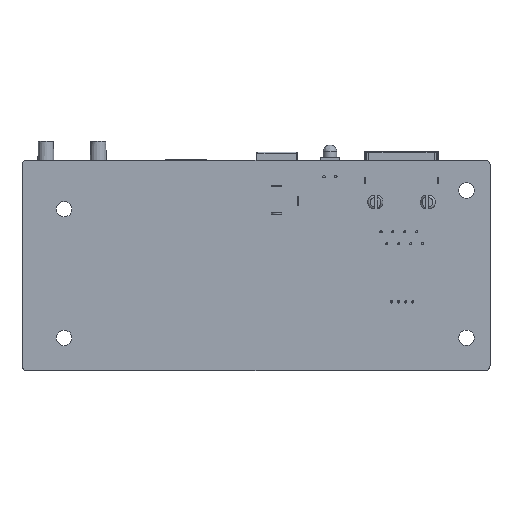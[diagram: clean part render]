
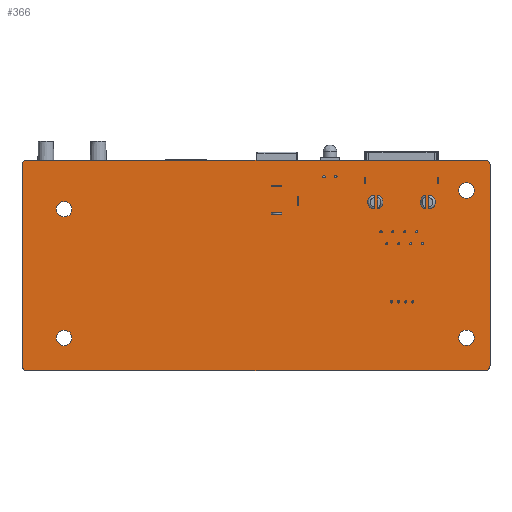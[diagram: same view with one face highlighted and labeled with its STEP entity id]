
A CAD part, front view. The second image highlights one B-rep face of the part: STEP entity #366.
In plain terms, the highlighted planar face has unit normal (0, -1, 0).
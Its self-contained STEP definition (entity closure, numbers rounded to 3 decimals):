
#39=CARTESIAN_POINT('',(-41.,0.,-15.5));
#40=DIRECTION('',(0.,1.,0.));
#41=DIRECTION('',(1.,0.,0.));
#42=AXIS2_PLACEMENT_3D('',#39,#40,#41);
#44=CARTESIAN_POINT('',(-41.,0.,-15.5));
#45=DIRECTION('',(0.,1.,0.));
#46=DIRECTION('',(-1.,0.,0.));
#47=AXIS2_PLACEMENT_3D('',#44,#45,#46);
#49=CARTESIAN_POINT('',(-41.,0.,12.));
#50=DIRECTION('',(0.,1.,0.));
#51=DIRECTION('',(1.,0.,0.));
#52=AXIS2_PLACEMENT_3D('',#49,#50,#51);
#54=CARTESIAN_POINT('',(-41.,0.,12.));
#55=DIRECTION('',(0.,1.,0.));
#56=DIRECTION('',(-1.,0.,0.));
#57=AXIS2_PLACEMENT_3D('',#54,#55,#56);
#59=CARTESIAN_POINT('',(45.,0.,-15.5));
#60=DIRECTION('',(0.,1.,0.));
#61=DIRECTION('',(1.,0.,0.));
#62=AXIS2_PLACEMENT_3D('',#59,#60,#61);
#64=CARTESIAN_POINT('',(45.,0.,-15.5));
#65=DIRECTION('',(0.,1.,0.));
#66=DIRECTION('',(-1.,0.,0.));
#67=AXIS2_PLACEMENT_3D('',#64,#65,#66);
#69=CARTESIAN_POINT('',(45.,0.,16.));
#70=DIRECTION('',(0.,1.,0.));
#71=DIRECTION('',(1.,0.,0.));
#72=AXIS2_PLACEMENT_3D('',#69,#70,#71);
#74=CARTESIAN_POINT('',(45.,0.,16.));
#75=DIRECTION('',(0.,1.,0.));
#76=DIRECTION('',(-1.,0.,0.));
#77=AXIS2_PLACEMENT_3D('',#74,#75,#76);
#79=CARTESIAN_POINT('',(-49.,0.,-21.5));
#80=DIRECTION('',(0.,-1.,0.));
#81=DIRECTION('',(-1.,0.,0.));
#82=AXIS2_PLACEMENT_3D('',#79,#80,#81);
#84=DIRECTION('',(0.,0.,1.));
#85=VECTOR('',#84,43.);
#86=CARTESIAN_POINT('',(-50.,0.,-21.5));
#87=LINE('',#86,#85);
#88=CARTESIAN_POINT('',(-49.,0.,21.5));
#89=DIRECTION('',(0.,-1.,0.));
#90=DIRECTION('',(0.,0.,1.));
#91=AXIS2_PLACEMENT_3D('',#88,#89,#90);
#93=DIRECTION('',(1.,0.,0.));
#94=VECTOR('',#93,98.);
#95=CARTESIAN_POINT('',(-49.,0.,22.5));
#96=LINE('',#95,#94);
#97=CARTESIAN_POINT('',(49.,0.,21.5));
#98=DIRECTION('',(0.,-1.,0.));
#99=DIRECTION('',(1.,0.,0.));
#100=AXIS2_PLACEMENT_3D('',#97,#98,#99);
#102=DIRECTION('',(0.,0.,-1.));
#103=VECTOR('',#102,43.);
#104=CARTESIAN_POINT('',(50.,0.,21.5));
#105=LINE('',#104,#103);
#106=CARTESIAN_POINT('',(49.,0.,-21.5));
#107=DIRECTION('',(0.,-1.,0.));
#108=DIRECTION('',(0.,0.,-1.));
#109=AXIS2_PLACEMENT_3D('',#106,#107,#108);
#111=DIRECTION('',(-1.,0.,0.));
#112=VECTOR('',#111,98.);
#113=CARTESIAN_POINT('',(49.,0.,-22.5));
#114=LINE('',#113,#112);
#255=CARTESIAN_POINT('',(-39.35,0.,-15.5));
#256=CARTESIAN_POINT('',(-42.65,0.,-15.5));
#257=VERTEX_POINT('',#255);
#258=VERTEX_POINT('',#256);
#259=CARTESIAN_POINT('',(-39.35,0.,12.));
#260=CARTESIAN_POINT('',(-42.65,0.,12.));
#261=VERTEX_POINT('',#259);
#262=VERTEX_POINT('',#260);
#263=CARTESIAN_POINT('',(46.65,0.,-15.5));
#264=CARTESIAN_POINT('',(43.35,0.,-15.5));
#265=VERTEX_POINT('',#263);
#266=VERTEX_POINT('',#264);
#267=CARTESIAN_POINT('',(46.65,0.,16.));
#268=CARTESIAN_POINT('',(43.35,0.,16.));
#269=VERTEX_POINT('',#267);
#270=VERTEX_POINT('',#268);
#287=CARTESIAN_POINT('',(-50.,0.,-21.5));
#288=CARTESIAN_POINT('',(-49.,0.,-22.5));
#289=VERTEX_POINT('',#287);
#290=VERTEX_POINT('',#288);
#295=CARTESIAN_POINT('',(-49.,0.,22.5));
#296=CARTESIAN_POINT('',(-50.,0.,21.5));
#297=VERTEX_POINT('',#295);
#298=VERTEX_POINT('',#296);
#303=CARTESIAN_POINT('',(50.,0.,21.5));
#304=CARTESIAN_POINT('',(49.,0.,22.5));
#305=VERTEX_POINT('',#303);
#306=VERTEX_POINT('',#304);
#311=CARTESIAN_POINT('',(49.,0.,-22.5));
#312=CARTESIAN_POINT('',(50.,0.,-21.5));
#313=VERTEX_POINT('',#311);
#314=VERTEX_POINT('',#312);
#319=CARTESIAN_POINT('',(0.,0.,0.));
#320=DIRECTION('',(0.,1.,0.));
#321=DIRECTION('',(1.,0.,0.));
#322=AXIS2_PLACEMENT_3D('',#319,#320,#321);
#323=PLANE('',#322);
#325=ORIENTED_EDGE('',*,*,#324,.F.);
#327=ORIENTED_EDGE('',*,*,#326,.T.);
#329=ORIENTED_EDGE('',*,*,#328,.F.);
#331=ORIENTED_EDGE('',*,*,#330,.T.);
#333=ORIENTED_EDGE('',*,*,#332,.F.);
#335=ORIENTED_EDGE('',*,*,#334,.T.);
#337=ORIENTED_EDGE('',*,*,#336,.F.);
#339=ORIENTED_EDGE('',*,*,#338,.T.);
#340=EDGE_LOOP('',(#325,#327,#329,#331,#333,#335,#337,#339));
#341=FACE_OUTER_BOUND('',#340,.F.);
#343=ORIENTED_EDGE('',*,*,#342,.F.);
#345=ORIENTED_EDGE('',*,*,#344,.F.);
#346=EDGE_LOOP('',(#343,#345));
#347=FACE_BOUND('',#346,.F.);
#349=ORIENTED_EDGE('',*,*,#348,.F.);
#351=ORIENTED_EDGE('',*,*,#350,.F.);
#352=EDGE_LOOP('',(#349,#351));
#353=FACE_BOUND('',#352,.F.);
#355=ORIENTED_EDGE('',*,*,#354,.F.);
#357=ORIENTED_EDGE('',*,*,#356,.F.);
#358=EDGE_LOOP('',(#355,#357));
#359=FACE_BOUND('',#358,.F.);
#361=ORIENTED_EDGE('',*,*,#360,.F.);
#363=ORIENTED_EDGE('',*,*,#362,.F.);
#364=EDGE_LOOP('',(#361,#363));
#365=FACE_BOUND('',#364,.F.);
#43=CIRCLE('',#42,1.65);
#48=CIRCLE('',#47,1.65);
#53=CIRCLE('',#52,1.65);
#58=CIRCLE('',#57,1.65);
#63=CIRCLE('',#62,1.65);
#68=CIRCLE('',#67,1.65);
#73=CIRCLE('',#72,1.65);
#78=CIRCLE('',#77,1.65);
#83=CIRCLE('',#82,1.);
#92=CIRCLE('',#91,1.);
#101=CIRCLE('',#100,1.);
#110=CIRCLE('',#109,1.);
#324=EDGE_CURVE('',#289,#290,#83,.T.);
#326=EDGE_CURVE('',#289,#298,#87,.T.);
#328=EDGE_CURVE('',#297,#298,#92,.T.);
#330=EDGE_CURVE('',#297,#306,#96,.T.);
#332=EDGE_CURVE('',#305,#306,#101,.T.);
#334=EDGE_CURVE('',#305,#314,#105,.T.);
#336=EDGE_CURVE('',#313,#314,#110,.T.);
#338=EDGE_CURVE('',#313,#290,#114,.T.);
#342=EDGE_CURVE('',#261,#262,#53,.T.);
#344=EDGE_CURVE('',#262,#261,#58,.T.);
#348=EDGE_CURVE('',#265,#266,#63,.T.);
#350=EDGE_CURVE('',#266,#265,#68,.T.);
#354=EDGE_CURVE('',#269,#270,#73,.T.);
#356=EDGE_CURVE('',#270,#269,#78,.T.);
#360=EDGE_CURVE('',#257,#258,#43,.T.);
#362=EDGE_CURVE('',#258,#257,#48,.T.);
#366=ADVANCED_FACE('',(#341,#347,#353,#359,#365),#323,.F.);
